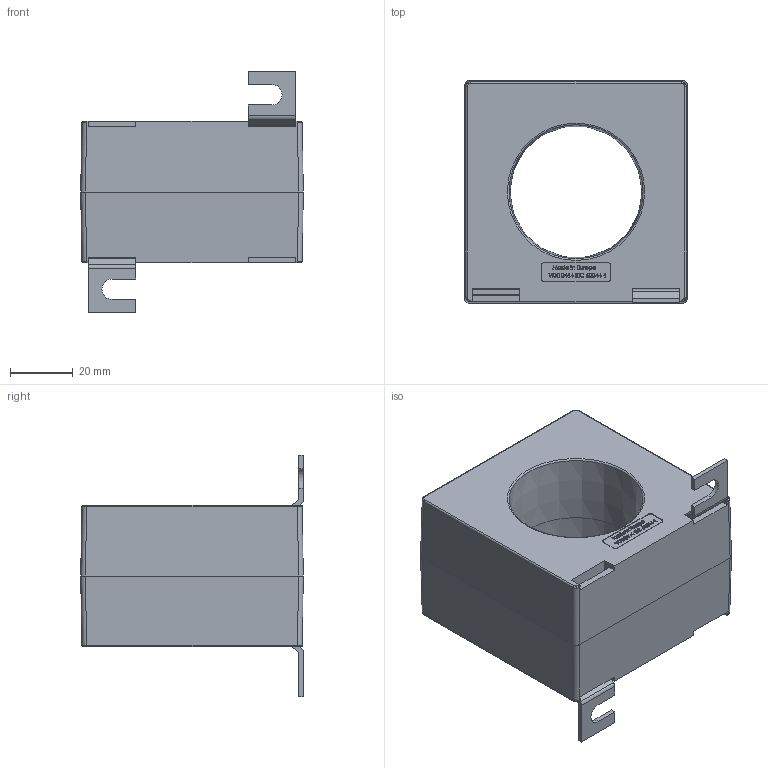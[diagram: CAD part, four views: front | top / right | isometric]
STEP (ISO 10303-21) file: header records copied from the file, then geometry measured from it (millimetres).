
FILE_DESCRIPTION(/* description */ (''),/* implementation_level */ '2;1');
FILE_NAME(/* name */ 'ASR42.45.stp',/* time_stamp */ '2024-03-05T09:53:04+01:00',/* author */ ('JDI'),/* organization */ (''),/* preprocessor_version */ 'ST-DEVELOPER v19.2',/* originating_system */ 'Autodesk Inventor 2023',/* authorisation */ '');
FILE_SCHEMA (('AUTOMOTIVE_DESIGN { 1 0 10303 214 3 1 1 }'));
Length unit declared in the file: millimetre
Products named in the file (1): ASR42.45
Bounding box: 71 x 71 x 77 mm (x, y, z)
Volume: 160169.6 mm3; surface area: 29068.3 mm2
Topology: 1 solids, 1 shells, 844 faces, 2210 edges, 1464 vertices
Faces by surface type: plane 530, bspline 274, cylinder 32, sphere 4, torus 2, cone 2
Entity records: 40937 total; most frequent: CARTESIAN_POINT 20953, ORIENTED_EDGE 4420, DIRECTION 2942, EDGE_CURVE 2210, LINE 1588, VECTOR 1588, VERTEX_POINT 1464, EDGE_LOOP 946
